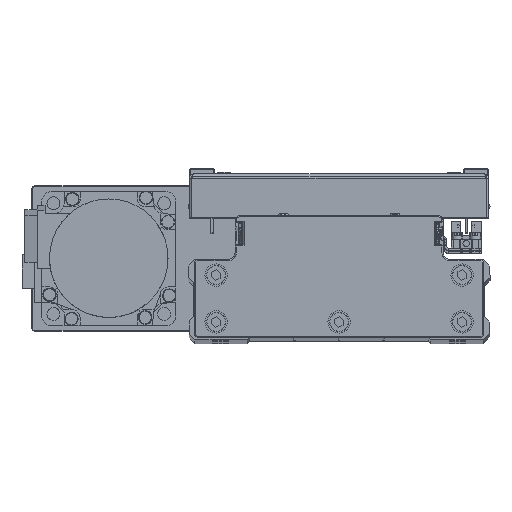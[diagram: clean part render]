
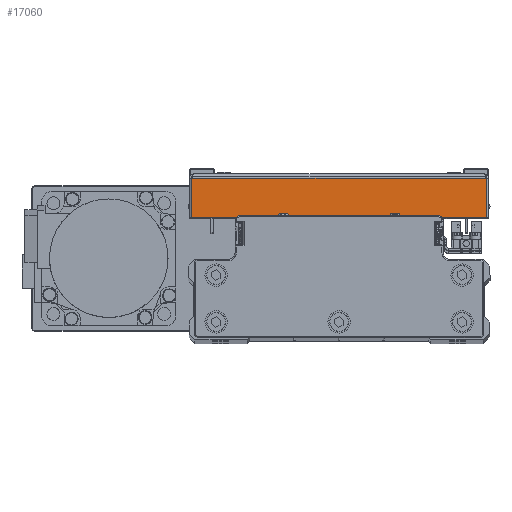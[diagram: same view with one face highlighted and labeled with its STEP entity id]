
A CAD part, top view. The second image highlights one B-rep face of the part: STEP entity #17060.
In plain terms, the highlighted planar face has unit normal (0, 0, 1) as drawn and (1, 0, 0) by its records, which use the part's own axes.
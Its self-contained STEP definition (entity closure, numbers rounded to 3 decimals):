
#390 = CARTESIAN_POINT ( 'NONE',  ( 100., 0., 0. ) ) ;
#2287 = ORIENTED_EDGE ( 'NONE', *, *, #13415, .F. ) ;
#2562 = VECTOR ( 'NONE', #3939, 1000. ) ;
#3836 = CARTESIAN_POINT ( 'NONE',  ( 100., 18.5, 0. ) ) ;
#3939 = DIRECTION ( 'NONE',  ( 0., 1., 0. ) ) ;
#7183 = LINE ( 'NONE', #20934, #39197 ) ;
#8735 = CARTESIAN_POINT ( 'NONE',  ( 100., 1., -65.929 ) ) ;
#9883 = DIRECTION ( 'NONE',  ( 0., 0., 1. ) ) ;
#11182 = ORIENTED_EDGE ( 'NONE', *, *, #21856, .T. ) ;
#13415 = EDGE_CURVE ( 'NONE', #37532, #38000, #26988, .T. ) ;
#14142 = DIRECTION ( 'NONE',  ( -1., 0., 0. ) ) ;
#15049 = VERTEX_POINT ( 'NONE', #35846 ) ;
#15433 = AXIS2_PLACEMENT_3D ( 'NONE', #390, #14142, #27873 ) ;
#17060 = ADVANCED_FACE ( 'NONE', ( #17525 ), #31253, .F. ) ;
#17525 = FACE_OUTER_BOUND ( 'NONE', #32353, .T. ) ;
#17589 = DIRECTION ( 'NONE',  ( 0., 0., 1. ) ) ;
#20872 = VECTOR ( 'NONE', #9883, 1000. ) ;
#20934 = CARTESIAN_POINT ( 'NONE',  ( 100., 0., 65.929 ) ) ;
#21074 = LINE ( 'NONE', #34826, #2562 ) ;
#21856 = EDGE_CURVE ( 'NONE', #37532, #15049, #21074, .T. ) ;
#22679 = EDGE_CURVE ( 'NONE', #15049, #26899, #34722, .T. ) ;
#23912 = ORIENTED_EDGE ( 'NONE', *, *, #22679, .T. ) ;
#24440 = EDGE_CURVE ( 'NONE', #38000, #26899, #7183, .T. ) ;
#26359 = VECTOR ( 'NONE', #17589, 1000. ) ;
#26899 = VERTEX_POINT ( 'NONE', #41772 ) ;
#26988 = LINE ( 'NONE', #40747, #20872 ) ;
#27873 = DIRECTION ( 'NONE',  ( 0., -1., 0. ) ) ;
#31253 = PLANE ( 'NONE',  #15433 ) ;
#32353 = EDGE_LOOP ( 'NONE', ( #2287, #11182, #23912, #34035 ) ) ;
#34035 = ORIENTED_EDGE ( 'NONE', *, *, #24440, .F. ) ;
#34686 = DIRECTION ( 'NONE',  ( 0., 1., 0. ) ) ;
#34722 = LINE ( 'NONE', #3836, #26359 ) ;
#34826 = CARTESIAN_POINT ( 'NONE',  ( 100., 0., -65.929 ) ) ;
#35846 = CARTESIAN_POINT ( 'NONE',  ( 100., 18.5, -65.929 ) ) ;
#35900 = CARTESIAN_POINT ( 'NONE',  ( 100., 1., 65.929 ) ) ;
#37532 = VERTEX_POINT ( 'NONE', #8735 ) ;
#38000 = VERTEX_POINT ( 'NONE', #35900 ) ;
#39197 = VECTOR ( 'NONE', #34686, 1000. ) ;
#40747 = CARTESIAN_POINT ( 'NONE',  ( 100., 1., 67. ) ) ;
#41772 = CARTESIAN_POINT ( 'NONE',  ( 100., 18.5, 65.929 ) ) ;
